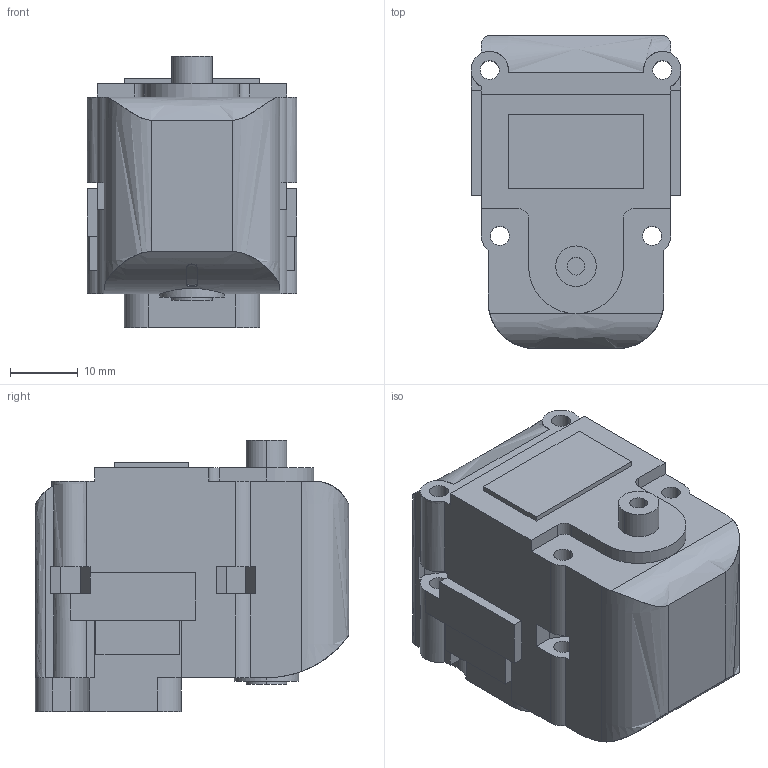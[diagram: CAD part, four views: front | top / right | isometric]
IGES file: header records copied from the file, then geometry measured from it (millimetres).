
Start section:  PTC IGES file: dx117.igs
Global section: file name: dx117.igs; native system: Pro/ENGINEER by Parametric Technology Corporation; preprocessor: 2005310; author: bono; organization: Unknown; date: 060501.143117; units: millimetre
Bounding box: 31 x 46.3 x 40.05 mm (x, y, z)
Surface area: 9003.1 mm2 (no closed solid volume)
Topology: 0 solids, 0 shells, 143 faces, 792 edges, 792 vertices
Faces by surface type: bspline 90, revolution 53
